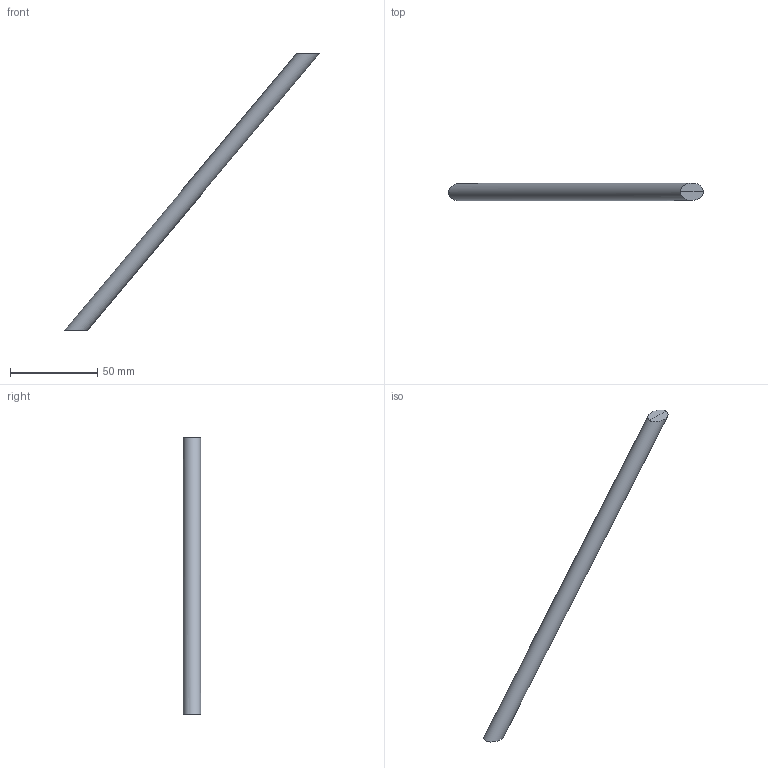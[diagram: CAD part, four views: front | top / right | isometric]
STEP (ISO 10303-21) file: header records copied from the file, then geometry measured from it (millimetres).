
FILE_DESCRIPTION(/* description */ (''),/* implementation_level */ '2;1');
FILE_NAME(/* name */ 'M:\Symbolen_NIEUW\STP\20-er truss\E20D\E20D-L075_111020013.stp',/* time_stamp */ '2017-11-16T13:39:52+01:00',/* author */ ('Kees'),/* organization */ (''),/* preprocessor_version */ 'ST-DEVELOPER v16.13',/* originating_system */ 'Autodesk Inventor 2018',/* authorisation */ '');
FILE_SCHEMA (('AUTOMOTIVE_DESIGN { 1 0 10303 214 3 1 1 }'));
Length unit declared in the file: millimetre
Products named in the file (1): 160008226
Bounding box: 145.63 x 9.98 x 158 mm (x, y, z)
Volume: 16199.2 mm3; surface area: 6684.7 mm2
Topology: 1 solids, 1 shells, 5 faces, 7 edges, 4 vertices
Faces by surface type: plane 4, cylinder 1
Full cylindrical faces by diameter (mm): 10 x1
Entity records: 149 total; most frequent: DIRECTION 22, CARTESIAN_POINT 16, ORIENTED_EDGE 12, AXIS2_PLACEMENT_3D 10, EDGE_LOOP 6, EDGE_CURVE 6, STYLED_ITEM 6, FACE_OUTER_BOUND 5
